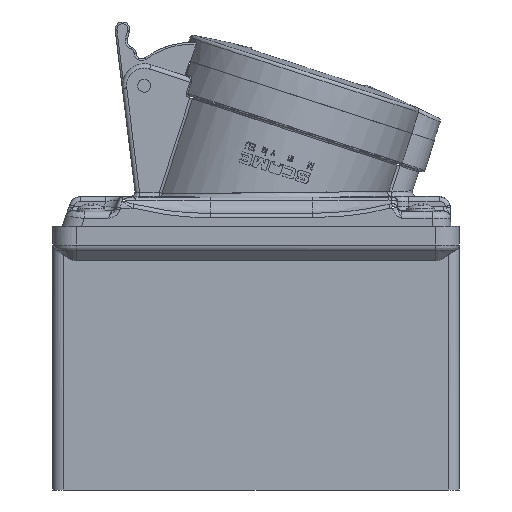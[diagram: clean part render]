
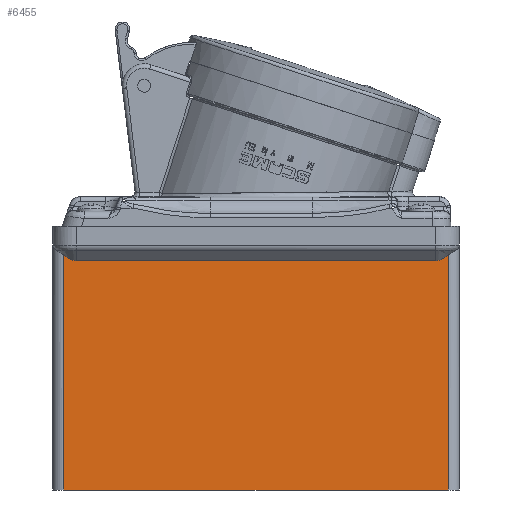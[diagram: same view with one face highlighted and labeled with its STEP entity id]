
A CAD part, left-side view. The second image highlights one B-rep face of the part: STEP entity #6455.
In plain terms, the highlighted planar face has unit normal (-1, 0, 0).
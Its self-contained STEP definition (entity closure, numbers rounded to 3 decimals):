
#4435=PLANE('',#14768);
#4578=FACE_OUTER_BOUND('',#7081,.T.);
#5072=LINE('',#18738,#5660);
#5079=LINE('',#18837,#5667);
#5100=LINE('',#18899,#5688);
#5122=LINE('',#19183,#5710);
#5660=VECTOR('',#15848,1.);
#5667=VECTOR('',#15867,1.);
#5688=VECTOR('',#15916,1.);
#5710=VECTOR('',#15974,1.);
#6455=ADVANCED_FACE('',(#4578),#4435,.F.);
#7081=EDGE_LOOP('',(#8337,#8338,#8339,#8340,#8341,#8342));
#8337=ORIENTED_EDGE('',*,*,#12369,.T.);
#8338=ORIENTED_EDGE('',*,*,#12437,.T.);
#8339=ORIENTED_EDGE('',*,*,#12355,.F.);
#8340=ORIENTED_EDGE('',*,*,#12398,.F.);
#8341=ORIENTED_EDGE('',*,*,#12436,.T.);
#8342=ORIENTED_EDGE('',*,*,#12349,.F.);
#11013=VERTEX_POINT('',#18630);
#11014=VERTEX_POINT('',#18631);
#11017=VERTEX_POINT('',#18739);
#11018=VERTEX_POINT('',#18740);
#11026=VERTEX_POINT('',#18838);
#11052=VERTEX_POINT('',#18898);
#12349=EDGE_CURVE('',#11013,#11014,#14168,.T.);
#12355=EDGE_CURVE('',#11017,#11018,#5072,.T.);
#12369=EDGE_CURVE('',#11013,#11026,#5079,.T.);
#12398=EDGE_CURVE('',#11052,#11017,#5100,.T.);
#12436=EDGE_CURVE('',#11052,#11014,#5122,.T.);
#12437=EDGE_CURVE('',#11026,#11018,#14190,.T.);
#14168=B_SPLINE_CURVE_WITH_KNOTS('',3,(#18624,#18625,#18626,#18627,#18628,
#18629),.UNSPECIFIED.,.F.,.F.,(4,2,4),(0.,0.5,1.),.UNSPECIFIED.);
#14190=B_SPLINE_CURVE_WITH_KNOTS('',3,(#19185,#19186,#19187,#19188,#19189,
#19190),.UNSPECIFIED.,.F.,.F.,(4,2,4),(0.,0.5,1.),.UNSPECIFIED.);
#14768=AXIS2_PLACEMENT_3D('',#19219,#15977,#15978);
#15848=DIRECTION('',(0.,0.,1.));
#15867=DIRECTION('',(0.,1.,0.));
#15916=DIRECTION('',(0.,1.,0.));
#15974=DIRECTION('',(0.,0.,1.));
#15977=DIRECTION('',(1.,0.,0.));
#15978=DIRECTION('',(0.,-1.,0.));
#18624=CARTESIAN_POINT('',(-41.001,-151.504,-4.904));
#18625=CARTESIAN_POINT('',(-41.001,-152.166,-4.904));
#18626=CARTESIAN_POINT('',(-41.001,-152.799,-4.673));
#18627=CARTESIAN_POINT('',(-41.001,-153.947,-4.065));
#18628=CARTESIAN_POINT('',(-41.001,-154.483,-3.689));
#18629=CARTESIAN_POINT('',(-41.001,-155.004,-3.294));
#18630=CARTESIAN_POINT('',(-41.001,-151.504,-4.904));
#18631=CARTESIAN_POINT('',(-41.001,-155.004,-3.294));
#18738=CARTESIAN_POINT('',(-41.001,-50.004,-67.404));
#18739=CARTESIAN_POINT('',(-41.001,-50.004,-67.404));
#18740=CARTESIAN_POINT('',(-41.001,-50.004,-3.294));
#18837=CARTESIAN_POINT('',(-41.001,-151.504,-4.904));
#18838=CARTESIAN_POINT('',(-41.001,-53.504,-4.904));
#18898=CARTESIAN_POINT('',(-41.001,-155.004,-67.404));
#18899=CARTESIAN_POINT('',(-41.001,-155.004,-67.404));
#19183=CARTESIAN_POINT('',(-41.001,-155.004,-67.404));
#19185=CARTESIAN_POINT('',(-41.001,-53.504,-4.904));
#19186=CARTESIAN_POINT('',(-41.001,-52.841,-4.904));
#19187=CARTESIAN_POINT('',(-41.001,-52.209,-4.673));
#19188=CARTESIAN_POINT('',(-41.001,-51.061,-4.065));
#19189=CARTESIAN_POINT('',(-41.001,-50.525,-3.689));
#19190=CARTESIAN_POINT('',(-41.001,-50.004,-3.294));
#19219=CARTESIAN_POINT('',(-41.001,-155.013,-67.412));
